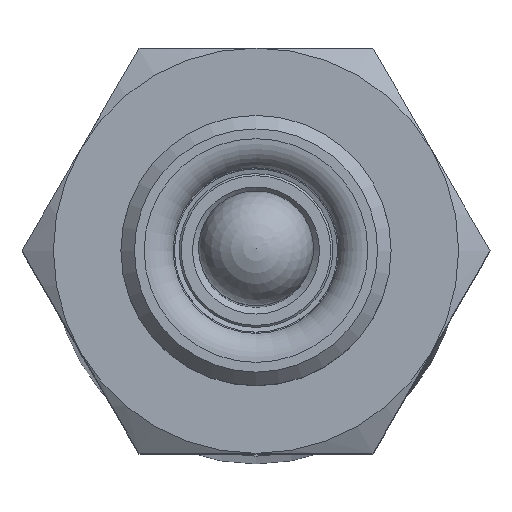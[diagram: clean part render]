
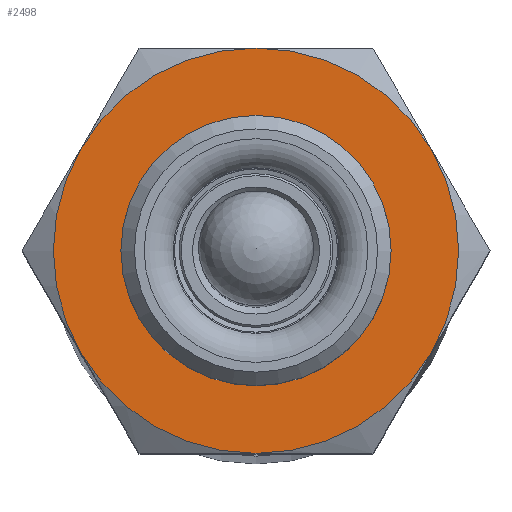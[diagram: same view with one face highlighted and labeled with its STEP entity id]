
A CAD part, top view. The second image highlights one B-rep face of the part: STEP entity #2498.
In plain terms, the highlighted planar face has unit normal (0, 0, 1) as drawn and (1, 0, 0) by its records, which use the part's own axes.
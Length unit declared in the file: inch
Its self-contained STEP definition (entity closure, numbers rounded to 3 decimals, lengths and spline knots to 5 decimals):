
#108=FACE_BOUND('',#596,.T.);
#168=PLANE('',#2893);
#393=FACE_OUTER_BOUND('',#595,.T.);
#595=EDGE_LOOP('',(#2099,#2100,#2101,#2102,#2103,#2104));
#596=EDGE_LOOP('',(#2105));
#1010=CIRCLE('',#2892,0.25006);
#1011=CIRCLE('',#2894,0.375);
#1012=CIRCLE('',#2895,0.375);
#1013=CIRCLE('',#2896,0.375);
#1014=CIRCLE('',#2897,0.375);
#1015=CIRCLE('',#2898,0.375);
#1016=CIRCLE('',#2899,0.375);
#1205=VERTEX_POINT('',#4839);
#1206=VERTEX_POINT('',#4843);
#1207=VERTEX_POINT('',#4844);
#1208=VERTEX_POINT('',#4846);
#1209=VERTEX_POINT('',#4848);
#1210=VERTEX_POINT('',#4850);
#1211=VERTEX_POINT('',#4852);
#1504=EDGE_CURVE('',#1205,#1205,#1010,.T.);
#1506=EDGE_CURVE('',#1206,#1207,#1011,.T.);
#1507=EDGE_CURVE('',#1207,#1208,#1012,.T.);
#1508=EDGE_CURVE('',#1208,#1209,#1013,.T.);
#1509=EDGE_CURVE('',#1209,#1210,#1014,.T.);
#1510=EDGE_CURVE('',#1210,#1211,#1015,.T.);
#1511=EDGE_CURVE('',#1211,#1206,#1016,.T.);
#2099=ORIENTED_EDGE('',*,*,#1506,.T.);
#2100=ORIENTED_EDGE('',*,*,#1507,.T.);
#2101=ORIENTED_EDGE('',*,*,#1508,.T.);
#2102=ORIENTED_EDGE('',*,*,#1509,.T.);
#2103=ORIENTED_EDGE('',*,*,#1510,.T.);
#2104=ORIENTED_EDGE('',*,*,#1511,.T.);
#2105=ORIENTED_EDGE('',*,*,#1504,.F.);
#2498=ADVANCED_FACE('',(#393,#108),#168,.T.);
#2892=AXIS2_PLACEMENT_3D('',#4840,#3640,#3641);
#2893=AXIS2_PLACEMENT_3D('',#4842,#3643,#3644);
#2894=AXIS2_PLACEMENT_3D('',#4845,#3645,#3646);
#2895=AXIS2_PLACEMENT_3D('',#4847,#3647,#3648);
#2896=AXIS2_PLACEMENT_3D('',#4849,#3649,#3650);
#2897=AXIS2_PLACEMENT_3D('',#4851,#3651,#3652);
#2898=AXIS2_PLACEMENT_3D('',#4853,#3653,#3654);
#2899=AXIS2_PLACEMENT_3D('',#4854,#3655,#3656);
#3640=DIRECTION('center_axis',(1.,0.,0.));
#3641=DIRECTION('ref_axis',(0.,0.,1.));
#3643=DIRECTION('center_axis',(1.,0.,0.));
#3644=DIRECTION('ref_axis',(0.,0.,-1.));
#3645=DIRECTION('center_axis',(1.,0.,0.));
#3646=DIRECTION('ref_axis',(0.,1.,0.));
#3647=DIRECTION('center_axis',(1.,0.,0.));
#3648=DIRECTION('ref_axis',(0.,1.,0.));
#3649=DIRECTION('center_axis',(1.,0.,0.));
#3650=DIRECTION('ref_axis',(0.,1.,0.));
#3651=DIRECTION('center_axis',(1.,0.,0.));
#3652=DIRECTION('ref_axis',(0.,1.,0.));
#3653=DIRECTION('center_axis',(1.,0.,0.));
#3654=DIRECTION('ref_axis',(0.,1.,0.));
#3655=DIRECTION('center_axis',(1.,0.,0.));
#3656=DIRECTION('ref_axis',(0.,1.,0.));
#4839=CARTESIAN_POINT('',(0.448,0.,-0.25006));
#4840=CARTESIAN_POINT('Origin',(0.448,0.,0.));
#4842=CARTESIAN_POINT('Origin',(0.448,0.,0.));
#4843=CARTESIAN_POINT('',(0.448,-0.32476,-0.1875));
#4844=CARTESIAN_POINT('',(0.448,0.,-0.375));
#4845=CARTESIAN_POINT('Origin',(0.448,0.,0.));
#4846=CARTESIAN_POINT('',(0.448,0.32476,-0.1875));
#4847=CARTESIAN_POINT('Origin',(0.448,0.,0.));
#4848=CARTESIAN_POINT('',(0.448,0.32476,0.1875));
#4849=CARTESIAN_POINT('Origin',(0.448,0.,0.));
#4850=CARTESIAN_POINT('',(0.448,0.,0.375));
#4851=CARTESIAN_POINT('Origin',(0.448,0.,0.));
#4852=CARTESIAN_POINT('',(0.448,-0.32476,0.1875));
#4853=CARTESIAN_POINT('Origin',(0.448,0.,0.));
#4854=CARTESIAN_POINT('Origin',(0.448,0.,0.));
